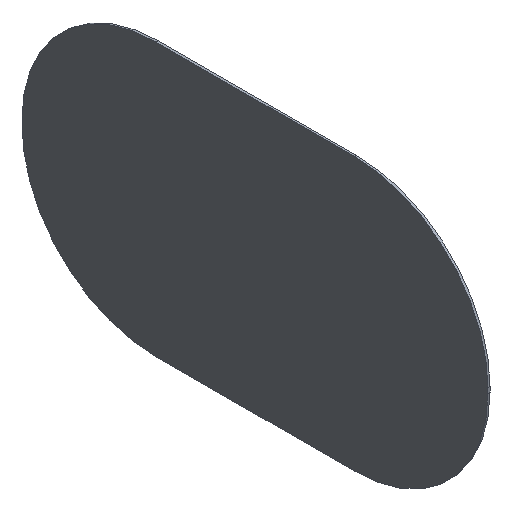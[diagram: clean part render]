
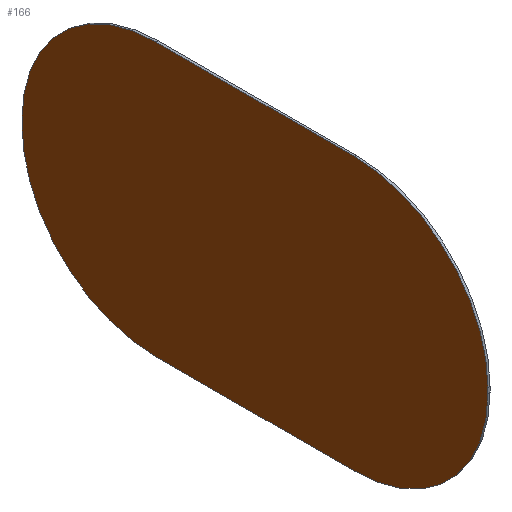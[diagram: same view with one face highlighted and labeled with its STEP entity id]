
A CAD part, isometric view. The second image highlights one B-rep face of the part: STEP entity #166.
In plain terms, the highlighted planar face has unit normal (-1, 0, 0).
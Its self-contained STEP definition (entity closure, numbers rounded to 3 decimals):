
#19=PLANE('',#192);
#22=FACE_OUTER_BOUND('',#32,.T.);
#32=EDGE_LOOP('',(#117,#118,#119,#120,#121,#122,#123,#124));
#43=CIRCLE('',#193,5.391);
#44=CIRCLE('',#194,5.391);
#45=CIRCLE('',#195,5.391);
#46=CIRCLE('',#196,5.391);
#57=LINE('',#281,#65);
#59=LINE('',#291,#67);
#60=LINE('',#295,#68);
#61=LINE('',#299,#69);
#65=VECTOR('',#219,1.);
#67=VECTOR('',#229,1.);
#68=VECTOR('',#232,1.);
#69=VECTOR('',#235,1.);
#73=VERTEX_POINT('',#279);
#74=VERTEX_POINT('',#280);
#77=VERTEX_POINT('',#288);
#78=VERTEX_POINT('',#290);
#79=VERTEX_POINT('',#292);
#80=VERTEX_POINT('',#294);
#81=VERTEX_POINT('',#296);
#82=VERTEX_POINT('',#298);
#89=EDGE_CURVE('',#73,#74,#57,.T.);
#93=EDGE_CURVE('',#74,#77,#43,.T.);
#94=EDGE_CURVE('',#77,#78,#59,.T.);
#95=EDGE_CURVE('',#78,#79,#44,.T.);
#96=EDGE_CURVE('',#79,#80,#60,.T.);
#97=EDGE_CURVE('',#80,#81,#45,.T.);
#98=EDGE_CURVE('',#81,#82,#61,.T.);
#99=EDGE_CURVE('',#82,#73,#46,.T.);
#117=ORIENTED_EDGE('',*,*,#89,.T.);
#118=ORIENTED_EDGE('',*,*,#93,.T.);
#119=ORIENTED_EDGE('',*,*,#94,.T.);
#120=ORIENTED_EDGE('',*,*,#95,.T.);
#121=ORIENTED_EDGE('',*,*,#96,.T.);
#122=ORIENTED_EDGE('',*,*,#97,.T.);
#123=ORIENTED_EDGE('',*,*,#98,.T.);
#124=ORIENTED_EDGE('',*,*,#99,.T.);
#166=ADVANCED_FACE('',(#22),#19,.F.);
#192=AXIS2_PLACEMENT_3D('',#287,#225,#226);
#193=AXIS2_PLACEMENT_3D('',#289,#227,#228);
#194=AXIS2_PLACEMENT_3D('',#293,#230,#231);
#195=AXIS2_PLACEMENT_3D('',#297,#233,#234);
#196=AXIS2_PLACEMENT_3D('',#300,#236,#237);
#219=DIRECTION('',(0.,-1.,0.));
#225=DIRECTION('center_axis',(1.,0.,0.));
#226=DIRECTION('ref_axis',(0.,0.,1.));
#227=DIRECTION('center_axis',(-1.,0.,0.));
#228=DIRECTION('ref_axis',(0.,0.,1.));
#229=DIRECTION('',(0.,0.,1.));
#230=DIRECTION('center_axis',(-1.,0.,0.));
#231=DIRECTION('ref_axis',(0.,0.,1.));
#232=DIRECTION('',(0.,1.,0.));
#233=DIRECTION('center_axis',(-1.,0.,0.));
#234=DIRECTION('ref_axis',(0.,0.,1.));
#235=DIRECTION('',(0.,0.,-1.));
#236=DIRECTION('center_axis',(-1.,0.,0.));
#237=DIRECTION('ref_axis',(0.,0.,1.));
#279=CARTESIAN_POINT('',(39.95,-2.,-17.491));
#280=CARTESIAN_POINT('',(39.95,-10.,-17.491));
#281=CARTESIAN_POINT('',(39.95,-4.,-17.491));
#287=CARTESIAN_POINT('Origin',(39.95,-80.,-30.));
#288=CARTESIAN_POINT('',(39.95,-15.391,-12.1));
#289=CARTESIAN_POINT('Origin',(39.95,-10.,-12.1));
#290=CARTESIAN_POINT('',(39.95,-15.391,-11.9));
#291=CARTESIAN_POINT('',(39.95,-15.391,-12.05));
#292=CARTESIAN_POINT('',(39.95,-10.,-6.509));
#293=CARTESIAN_POINT('Origin',(39.95,-10.,-11.9));
#294=CARTESIAN_POINT('',(39.95,-2.,-6.509));
#295=CARTESIAN_POINT('',(39.95,-8.,-6.509));
#296=CARTESIAN_POINT('',(39.95,3.391,-11.9));
#297=CARTESIAN_POINT('Origin',(39.95,-2.,-11.9));
#298=CARTESIAN_POINT('',(39.95,3.391,-12.1));
#299=CARTESIAN_POINT('',(39.95,3.391,-11.95));
#300=CARTESIAN_POINT('Origin',(39.95,-2.,-12.1));
